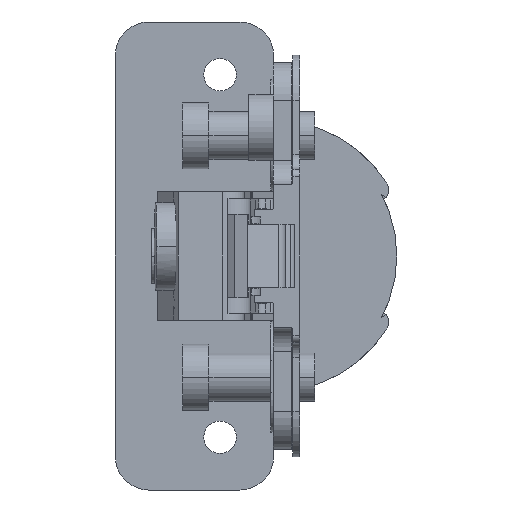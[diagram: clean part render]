
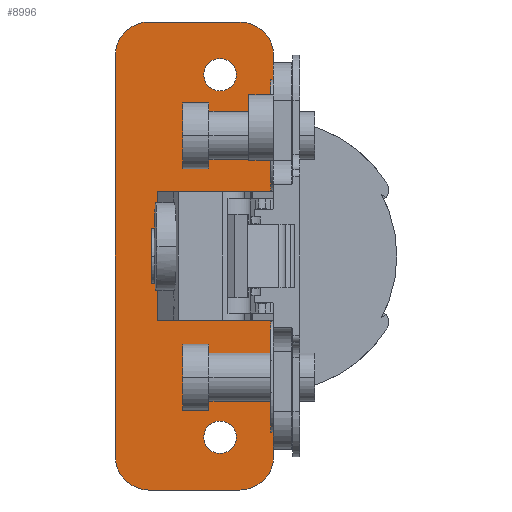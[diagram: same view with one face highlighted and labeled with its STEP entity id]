
A CAD part, left-side view. The second image highlights one B-rep face of the part: STEP entity #8996.
In plain terms, the highlighted planar face has unit normal (-1, 0, 0).
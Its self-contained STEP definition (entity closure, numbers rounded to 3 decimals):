
#308 = CARTESIAN_POINT ( 'NONE',  ( 35.509, -1.836, -8.5 ) ) ;
#516 = VERTEX_POINT ( 'NONE', #10580 ) ;
#696 = CIRCLE ( 'NONE', #9702, 2.15 ) ;
#779 = DIRECTION ( 'NONE',  ( 0., -1., 0. ) ) ;
#797 = CARTESIAN_POINT ( 'NONE',  ( 35.509, 19.128, -26.536 ) ) ;
#951 = DIRECTION ( 'NONE',  ( -1., 0., 0. ) ) ;
#967 = CARTESIAN_POINT ( 'NONE',  ( 35.509, 5.246, -24. ) ) ;
#992 = EDGE_CURVE ( 'NONE', #5232, #8822, #2565, .T. ) ;
#1034 = VERTEX_POINT ( 'NONE', #7244 ) ;
#1113 = ORIENTED_EDGE ( 'NONE', *, *, #7081, .T. ) ;
#1170 = EDGE_CURVE ( 'NONE', #516, #1362, #1523, .T. ) ;
#1206 = DIRECTION ( 'NONE',  ( -1., 0., 0. ) ) ;
#1249 = AXIS2_PLACEMENT_3D ( 'NONE', #13934, #13843, #13789 ) ;
#1362 = VERTEX_POINT ( 'NONE', #3594 ) ;
#1523 = CIRCLE ( 'NONE', #9052, 4.446 ) ;
#1748 = DIRECTION ( 'NONE',  ( 0., -1., 0. ) ) ;
#1855 = EDGE_CURVE ( 'NONE', #7621, #5362, #12296, .T. ) ;
#2033 = CARTESIAN_POINT ( 'NONE',  ( 35.509, 14.682, 30.982 ) ) ;
#2044 = CARTESIAN_POINT ( 'NONE',  ( 35.509, 5.246, 26.15 ) ) ;
#2456 = DIRECTION ( 'NONE',  ( -1., 0., 0. ) ) ;
#2473 = VERTEX_POINT ( 'NONE', #797 ) ;
#2565 = CIRCLE ( 'NONE', #9356, 2.15 ) ;
#2619 = CARTESIAN_POINT ( 'NONE',  ( 35.509, 5.246, 21.85 ) ) ;
#2721 = VECTOR ( 'NONE', #10645, 1000. ) ;
#2761 = CARTESIAN_POINT ( 'NONE',  ( 35.509, 2.61, -26.536 ) ) ;
#2896 = CARTESIAN_POINT ( 'NONE',  ( 35.509, -1.836, -26.536 ) ) ;
#3017 = EDGE_CURVE ( 'NONE', #1362, #3652, #3138, .T. ) ;
#3122 = VECTOR ( 'NONE', #5391, 1000. ) ;
#3138 = LINE ( 'NONE', #2033, #3122 ) ;
#3217 = CARTESIAN_POINT ( 'NONE',  ( 35.509, 14.682, 30.982 ) ) ;
#3316 = LINE ( 'NONE', #11176, #2721 ) ;
#3571 = AXIS2_PLACEMENT_3D ( 'NONE', #3578, #11551, #4719 ) ;
#3576 = CARTESIAN_POINT ( 'NONE',  ( 35.509, 13.47, 8.5 ) ) ;
#3578 = CARTESIAN_POINT ( 'NONE',  ( 35.509, 14.682, 26.536 ) ) ;
#3594 = CARTESIAN_POINT ( 'NONE',  ( 35.509, 2.61, 30.982 ) ) ;
#3609 = EDGE_CURVE ( 'NONE', #1034, #4274, #12272, .T. ) ;
#3652 = VERTEX_POINT ( 'NONE', #3217 ) ;
#3750 = CARTESIAN_POINT ( 'NONE',  ( 35.509, 7.593, -8.5 ) ) ;
#4118 = AXIS2_PLACEMENT_3D ( 'NONE', #967, #951, #779 ) ;
#4150 = ORIENTED_EDGE ( 'NONE', *, *, #12261, .F. ) ;
#4248 = ORIENTED_EDGE ( 'NONE', *, *, #4856, .T. ) ;
#4274 = VERTEX_POINT ( 'NONE', #11921 ) ;
#4275 = DIRECTION ( 'NONE',  ( 0., -1., 0. ) ) ;
#4296 = CARTESIAN_POINT ( 'NONE',  ( 35.509, 5.246, -26.15 ) ) ;
#4328 = DIRECTION ( 'NONE',  ( -1., 0., 0. ) ) ;
#4355 = ORIENTED_EDGE ( 'NONE', *, *, #3609, .T. ) ;
#4378 = CARTESIAN_POINT ( 'NONE',  ( 35.509, 5.246, 24. ) ) ;
#4457 = AXIS2_PLACEMENT_3D ( 'NONE', #8481, #9285, #8274 ) ;
#4486 = ORIENTED_EDGE ( 'NONE', *, *, #13943, .T. ) ;
#4572 = EDGE_CURVE ( 'NONE', #13208, #9071, #11330, .T. ) ;
#4640 = EDGE_CURVE ( 'NONE', #4274, #8811, #10462, .T. ) ;
#4642 = ORIENTED_EDGE ( 'NONE', *, *, #992, .F. ) ;
#4719 = DIRECTION ( 'NONE',  ( 0., -1., 0. ) ) ;
#4825 = CARTESIAN_POINT ( 'NONE',  ( 35.509, 10.31, 8.5 ) ) ;
#4856 = EDGE_CURVE ( 'NONE', #10563, #2473, #6900, .T. ) ;
#4867 = DIRECTION ( 'NONE',  ( 0., -1., 0. ) ) ;
#4934 = VERTEX_POINT ( 'NONE', #3576 ) ;
#4986 = ORIENTED_EDGE ( 'NONE', *, *, #8049, .F. ) ;
#5051 = EDGE_CURVE ( 'NONE', #7706, #516, #3316, .T. ) ;
#5053 = VECTOR ( 'NONE', #4867, 1000. ) ;
#5123 = AXIS2_PLACEMENT_3D ( 'NONE', #2761, #2456, #1748 ) ;
#5232 = VERTEX_POINT ( 'NONE', #2619 ) ;
#5263 = LINE ( 'NONE', #4825, #5053 ) ;
#5268 = CARTESIAN_POINT ( 'NONE',  ( 35.509, 5.246, -21.85 ) ) ;
#5292 = DIRECTION ( 'NONE',  ( 0., -1., 0. ) ) ;
#5353 = DIRECTION ( 'NONE',  ( -1., 0., 0. ) ) ;
#5362 = VERTEX_POINT ( 'NONE', #12558 ) ;
#5391 = DIRECTION ( 'NONE',  ( 0., 1., 0. ) ) ;
#5452 = CARTESIAN_POINT ( 'NONE',  ( 35.509, 2.61, 26.536 ) ) ;
#5983 = AXIS2_PLACEMENT_3D ( 'NONE', #8152, #1206, #9282 ) ;
#6146 = DIRECTION ( 'NONE',  ( 0., 0., 1. ) ) ;
#6392 = VECTOR ( 'NONE', #6146, 1000. ) ;
#6478 = CARTESIAN_POINT ( 'NONE',  ( 35.509, -1.836, 8.5 ) ) ;
#6557 = LINE ( 'NONE', #8494, #6392 ) ;
#6845 = CIRCLE ( 'NONE', #3571, 4.446 ) ;
#6900 = LINE ( 'NONE', #7446, #7627 ) ;
#7081 = EDGE_CURVE ( 'NONE', #4934, #7706, #5263, .T. ) ;
#7150 = ORIENTED_EDGE ( 'NONE', *, *, #4572, .F. ) ;
#7244 = CARTESIAN_POINT ( 'NONE',  ( 35.509, 14.682, -30.982 ) ) ;
#7430 = VECTOR ( 'NONE', #12180, 1000. ) ;
#7446 = CARTESIAN_POINT ( 'NONE',  ( 35.509, 19.128, -26.536 ) ) ;
#7520 = LINE ( 'NONE', #13899, #7430 ) ;
#7544 = CARTESIAN_POINT ( 'NONE',  ( 35.509, 2.61, -30.982 ) ) ;
#7621 = VERTEX_POINT ( 'NONE', #308 ) ;
#7627 = VECTOR ( 'NONE', #10612, 1000. ) ;
#7706 = VERTEX_POINT ( 'NONE', #6478 ) ;
#7720 = ORIENTED_EDGE ( 'NONE', *, *, #1170, .T. ) ;
#8021 = ORIENTED_EDGE ( 'NONE', *, *, #14059, .T. ) ;
#8049 = EDGE_CURVE ( 'NONE', #8822, #5232, #696, .T. ) ;
#8080 = EDGE_LOOP ( 'NONE', ( #4986, #4642 ) ) ;
#8127 = DIRECTION ( 'NONE',  ( 0., -1., 0. ) ) ;
#8152 = CARTESIAN_POINT ( 'NONE',  ( 35.509, 14.682, -26.536 ) ) ;
#8165 = CARTESIAN_POINT ( 'NONE',  ( 35.509, 19.128, 26.536 ) ) ;
#8262 = ORIENTED_EDGE ( 'NONE', *, *, #9906, .T. ) ;
#8274 = DIRECTION ( 'NONE',  ( 0., 0., 1. ) ) ;
#8326 = PLANE ( 'NONE',  #4457 ) ;
#8481 = CARTESIAN_POINT ( 'NONE',  ( 35.509, 2.61, -26.536 ) ) ;
#8494 = CARTESIAN_POINT ( 'NONE',  ( 35.509, -1.836, -26.536 ) ) ;
#8498 = ORIENTED_EDGE ( 'NONE', *, *, #5051, .T. ) ;
#8649 = EDGE_LOOP ( 'NONE', ( #4150, #7150 ) ) ;
#8660 = ORIENTED_EDGE ( 'NONE', *, *, #1855, .T. ) ;
#8732 = CIRCLE ( 'NONE', #5983, 4.446 ) ;
#8811 = VERTEX_POINT ( 'NONE', #2896 ) ;
#8822 = VERTEX_POINT ( 'NONE', #2044 ) ;
#8996 = ADVANCED_FACE ( 'NONE', ( #11282, #11294, #11467 ), #8326, .T. ) ;
#9052 = AXIS2_PLACEMENT_3D ( 'NONE', #5452, #5353, #5292 ) ;
#9071 = VERTEX_POINT ( 'NONE', #4296 ) ;
#9282 = DIRECTION ( 'NONE',  ( 0., -1., 0. ) ) ;
#9285 = DIRECTION ( 'NONE',  ( -1., 0., 0. ) ) ;
#9356 = AXIS2_PLACEMENT_3D ( 'NONE', #12769, #12716, #12614 ) ;
#9702 = AXIS2_PLACEMENT_3D ( 'NONE', #4378, #4328, #4275 ) ;
#9830 = ORIENTED_EDGE ( 'NONE', *, *, #13467, .T. ) ;
#9906 = EDGE_CURVE ( 'NONE', #5362, #4934, #7520, .T. ) ;
#10462 = CIRCLE ( 'NONE', #5123, 4.446 ) ;
#10563 = VERTEX_POINT ( 'NONE', #8165 ) ;
#10580 = CARTESIAN_POINT ( 'NONE',  ( 35.509, -1.836, 26.536 ) ) ;
#10612 = DIRECTION ( 'NONE',  ( 0., 0., -1. ) ) ;
#10645 = DIRECTION ( 'NONE',  ( 0., 0., 1. ) ) ;
#10906 = EDGE_LOOP ( 'NONE', ( #8021, #8660, #8262, #1113, #8498, #7720, #13772, #4486, #4248, #9830, #4355, #11917 ) ) ;
#11176 = CARTESIAN_POINT ( 'NONE',  ( 35.509, -1.836, -26.536 ) ) ;
#11282 = FACE_OUTER_BOUND ( 'NONE', #10906, .T. ) ;
#11294 = FACE_BOUND ( 'NONE', #8649, .T. ) ;
#11330 = CIRCLE ( 'NONE', #1249, 2.15 ) ;
#11467 = FACE_BOUND ( 'NONE', #8080, .T. ) ;
#11551 = DIRECTION ( 'NONE',  ( -1., 0., 0. ) ) ;
#11849 = VECTOR ( 'NONE', #8127, 1000. ) ;
#11917 = ORIENTED_EDGE ( 'NONE', *, *, #4640, .T. ) ;
#11921 = CARTESIAN_POINT ( 'NONE',  ( 35.509, 2.61, -30.982 ) ) ;
#12039 = VECTOR ( 'NONE', #14127, 1000. ) ;
#12180 = DIRECTION ( 'NONE',  ( 0., 0., 1. ) ) ;
#12261 = EDGE_CURVE ( 'NONE', #9071, #13208, #12487, .T. ) ;
#12272 = LINE ( 'NONE', #7544, #11849 ) ;
#12296 = LINE ( 'NONE', #3750, #12039 ) ;
#12487 = CIRCLE ( 'NONE', #4118, 2.15 ) ;
#12558 = CARTESIAN_POINT ( 'NONE',  ( 35.509, 13.47, -8.5 ) ) ;
#12614 = DIRECTION ( 'NONE',  ( 0., -1., 0. ) ) ;
#12716 = DIRECTION ( 'NONE',  ( -1., 0., 0. ) ) ;
#12769 = CARTESIAN_POINT ( 'NONE',  ( 35.509, 5.246, 24. ) ) ;
#13208 = VERTEX_POINT ( 'NONE', #5268 ) ;
#13467 = EDGE_CURVE ( 'NONE', #2473, #1034, #8732, .T. ) ;
#13772 = ORIENTED_EDGE ( 'NONE', *, *, #3017, .T. ) ;
#13789 = DIRECTION ( 'NONE',  ( 0., -1., 0. ) ) ;
#13843 = DIRECTION ( 'NONE',  ( -1., 0., 0. ) ) ;
#13899 = CARTESIAN_POINT ( 'NONE',  ( 35.509, 13.47, -88.107 ) ) ;
#13934 = CARTESIAN_POINT ( 'NONE',  ( 35.509, 5.246, -24. ) ) ;
#13943 = EDGE_CURVE ( 'NONE', #3652, #10563, #6845, .T. ) ;
#14059 = EDGE_CURVE ( 'NONE', #8811, #7621, #6557, .T. ) ;
#14127 = DIRECTION ( 'NONE',  ( 0., 1., 0. ) ) ;
